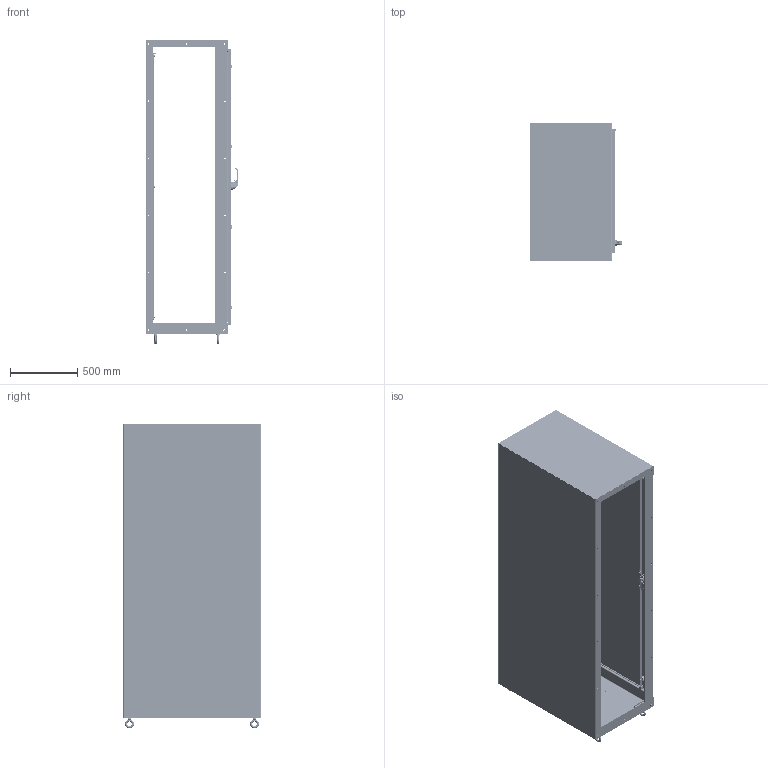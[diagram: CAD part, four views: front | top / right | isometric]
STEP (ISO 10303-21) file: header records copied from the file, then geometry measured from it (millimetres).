
FILE_DESCRIPTION((''),'2;1');
FILE_NAME('MODEL-461_ASM','2026-04-20T15:11:12',('richards'),('SAGINAW CONTROL & ENGINEERING'),'CREO PARAMETRIC BY PTC INC, 2021284','CREO PARAMETRIC BY PTC INC, 2021284','');
FILE_SCHEMA(('AUTOMOTIVE_DESIGN { 1 0 10303 214 1 1 1 1 }'));
Length unit declared in the file: inch
Products named in the file (80): MODEL-461-L-SD; MODEL-461-TP; MODEL-461-R-SD; MODEL-461-BTM; MODEL-461-DR; 100837; 100957_SCREW_MTG; 100957_PADLOCK_CATCH; 100957_SCREW_LARGE; 100957_INSERT_SHAFT; 100957_INSERT_PH; 100957_GASKET; 100957_O-RING; 100957_BASE; 100957_SPRING; 100957_HANDLE; 100957_CAM_SHAFT; 100957_HANDLE_ASM; 100957_CAM_ADAPTER; 100957_EARTH_NUT; 100957_FLANGE_NUT; 100957_CAM_NUT; 100957_ASM; 102237; 100030; 102237_ASM; MODEL-461-ROD-UPR; 128146; 128145; 128144; 102482; MODEL-461-ROD-UPR_ASM; 128143; 100882; 112504; MODEL-461-ROD-LWR; MODEL-461-ROD-LWR_ASM; MODEL-461-PR-GSKT; 128258; 128258_ASM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
Assembly tree (150 placements, depth 5):
  MODEL-461_ASM
    MODEL-461-L-SD
    MODEL-461-TP
    MODEL-461-R-SD
    MODEL-461-BTM
    MODEL-461-DOOR-ASSY_ASM
      MODEL-461-DR
      100837  x3
      100957_ASM
        100957_SCREW_MTG
        100957_PADLOCK_CATCH
        100957_SCREW_LARGE  x2
        100957_INSERT_SHAFT
        100957_INSERT_PH
        100957_GASKET
        100957_O-RING
        100957_BASE
        100957_SPRING
        100957_HANDLE_ASM
          100957_HANDLE
          100957_CAM_SHAFT
        100957_CAM_ADAPTER
        100957_EARTH_NUT
        100957_FLANGE_NUT
        100957_CAM_NUT
      102237_ASM
        102237
        100030  x2
      MODEL-461-ROD-UPR_ASM
        MODEL-461-ROD-UPR
        128146
        128145
        128144
        102482  x2
      128143  x2
      100882  x10
      112504  x2
      MODEL-461-ROD-LWR_ASM
        MODEL-461-ROD-LWR
        128146
        128145
        128144
        102482  x2
      MODEL-461-PR-GSKT
      128258_ASM  x4
        128258
      126395  x4
      102483  x4
      101383_ASM  x4
        101383
        101383-STUD
      101221  x4
      125597
    MODEL-461-BCK
    100837  x7
    101653  x8
    102245  x2
    121454
    MODEL-461-BB  x3
    130514  x4
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Bounding box: 687.67 x 1022.35 x 2259.2 mm (x, y, z)
Volume: 25904561.3 mm3; surface area: 18593581.2 mm2
Topology: 155 solids, 155 shells, 15804 faces, 39967 edges, 24560 vertices
Faces by surface type: plane 5241, cylinder 4442, bspline 3295, torus 1382, cone 667, sphere 482, extrusion 295
Entity records: 549709 total; most frequent: CARTESIAN_POINT 262898, ORIENTED_EDGE 44692, DIRECTION 40899, PRESENTATION_STYLE_ASSIGNMENT 22415, STYLED_ITEM 22385, EDGE_CURVE 22346, CURVE_STYLE 22298, AXIS2_PLACEMENT_3D 15191
